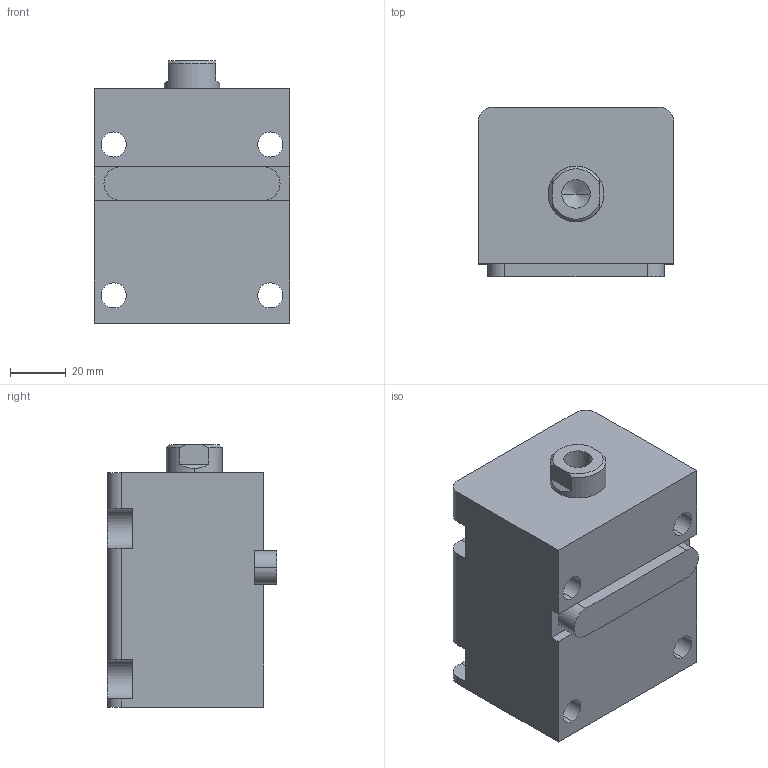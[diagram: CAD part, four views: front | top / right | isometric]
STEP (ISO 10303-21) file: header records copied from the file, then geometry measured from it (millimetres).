
FILE_DESCRIPTION (( 'STEP AP203' ), '1' );
FILE_NAME ('HTB-LA32-30N.STEP', '2019-10-09T06:26:55', ( '微软用户' ), ( '微软中国' ), 'SwSTEP 2.0', 'SolidWorks 2012', '' );
FILE_SCHEMA (( 'CONFIG_CONTROL_DESIGN' ));
Length unit declared in the file: millimetre
Products named in the file (4): HTB-LA32-30掛极; HTB-LA32-30N活塞杆; HTB-LA32-瑩; HTB-LA32-30N
Assembly tree (3 placements, depth 2):
  HTB-LA32-30N
    HTB-LA32-30掛极
    HTB-LA32-30N活塞杆
    HTB-LA32-瑩
Bounding box: 70 x 60.5 x 94 mm (x, y, z)
Volume: 298223.1 mm3; surface area: 53331.7 mm2
Topology: 3 solids, 3 shells, 88 faces, 217 edges, 141 vertices
Faces by surface type: plane 39, cylinder 35, cone 8, torus 6
Entity records: 3053 total; most frequent: DIRECTION 487, CARTESIAN_POINT 478, ORIENTED_EDGE 430, EDGE_CURVE 215, AXIS2_PLACEMENT_3D 186, VERTEX_POINT 141, LINE 115, VECTOR 115
